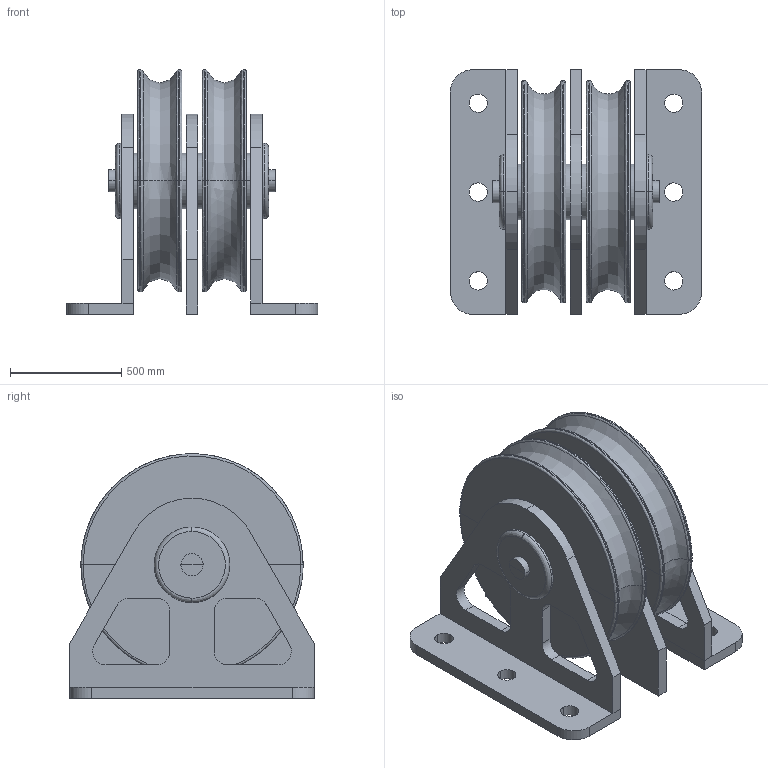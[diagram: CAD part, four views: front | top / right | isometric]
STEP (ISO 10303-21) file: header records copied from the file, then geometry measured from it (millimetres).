
FILE_DESCRIPTION(/* description */ (''),/* implementation_level */ '2;1');
FILE_NAME(/* name */ 'POULIE DOUBLE FIXE D 100',/* time_stamp */ '2005-05-31T08:52:43+02:00',/* author */ (''),/* organization */ (''),/* preprocessor_version */ 'ST-DEVELOPER v8',/* originating_system */ '',/* authorisation */ '');
FILE_SCHEMA (('CONFIG_CONTROL_DESIGN'));
Length unit declared in the file: centimetre
Products named in the file (1): 1
Bounding box: 1130 x 1100 x 1099.35 mm (x, y, z)
Volume: 396716447.2 mm3; surface area: 12653788.6 mm2
Topology: 18 solids, 18 shells, 300 faces, 678 edges, 390 vertices
Faces by surface type: bspline 300
Entity records: 10713 total; most frequent: CARTESIAN_POINT 6791, ORIENTED_EDGE 1332, EDGE_CURVE 666, VERTEX_POINT 395, B_SPLINE_CURVE_WITH_KNOTS 364, EDGE_LOOP 338, ADVANCED_FACE 300, FACE_OUTER_BOUND 300
